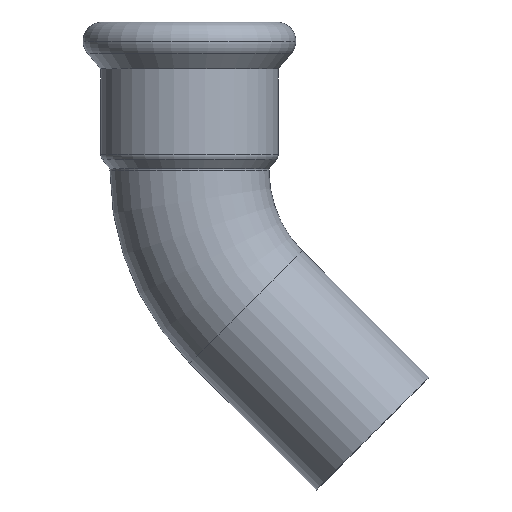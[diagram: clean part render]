
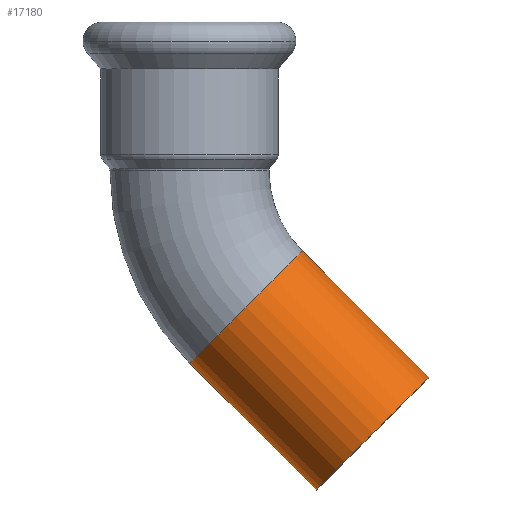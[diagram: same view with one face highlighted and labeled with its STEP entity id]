
A CAD part, top view. The second image highlights one B-rep face of the part: STEP entity #17180.
In plain terms, the highlighted cylindrical face has radius 14 mm (diameter 28 mm), a partial arc.
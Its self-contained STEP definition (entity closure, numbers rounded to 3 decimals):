
#14420=CARTESIAN_POINT('',(-394.348,17.515,0.));
#14430=DIRECTION('',(0.707,-0.707,0.));
#14440=DIRECTION('',(-0.707,-0.707,0.));
#14450=AXIS2_PLACEMENT_3D('',#14420,#14430,#14440);
#14460=CIRCLE('',#14450,14.);
#14470=CARTESIAN_POINT('',(-394.348,17.515,14.));
#14480=VERTEX_POINT('',#14470);
#14490=CARTESIAN_POINT('',(-404.247,7.615,
0.));
#14500=VERTEX_POINT('',#14490);
#14510=EDGE_CURVE('',#14480,#14500,#14460,.T.);
#14720=CARTESIAN_POINT('',(-384.448,27.414,
0.));
#14730=VERTEX_POINT('',#14720);
#14760=EDGE_CURVE('',#14730,#14480,#14460,.T.);
#15190=CARTESIAN_POINT('',(-394.348,17.515,0.));
#15200=DIRECTION('',(-0.707,0.707,0.));
#15210=DIRECTION('',(-0.707,-0.707,0.));
#15220=AXIS2_PLACEMENT_3D('',#15190,#15200,#15210);
#15230=CYLINDRICAL_SURFACE('',#15220,14.);
#15240=CARTESIAN_POINT('',(-384.448,27.414,
0.));
#15250=DIRECTION('',(-0.707,0.707,0.));
#15260=VECTOR('',#15250,1.);
#15270=LINE('',#15240,#15260);
#15280=CARTESIAN_POINT('',(-362.163,5.129,
0.));
#15290=VERTEX_POINT('',#15280);
#15300=EDGE_CURVE('',#15290,#14730,#15270,.T.);
#15340=CARTESIAN_POINT('',(-404.247,7.615,0.));
#15350=DIRECTION('',(-0.707,0.707,0.));
#15360=VECTOR('',#15350,1.);
#15370=LINE('',#15340,#15360);
#15380=CARTESIAN_POINT('',(-381.962,-14.67,0.));
#15390=VERTEX_POINT('',#15380);
#15400=EDGE_CURVE('',#15390,#14500,#15370,.T.);
#15420=CARTESIAN_POINT('',(-372.062,-4.771,0.));
#15430=DIRECTION('',(-0.707,0.707,0.));
#15440=DIRECTION('',(-0.707,-0.707,0.));
#15450=AXIS2_PLACEMENT_3D('',#15420,#15430,#15440);
#15460=CIRCLE('',#15450,14.);
#15570=EDGE_CURVE('',#15390,#15290,#15460,.T.);
#17110=ORIENTED_EDGE('',*,*,#15300,.T.);
#17120=ORIENTED_EDGE('',*,*,#15570,.T.);
#17130=ORIENTED_EDGE('',*,*,#15400,.F.);
#17140=ORIENTED_EDGE('',*,*,#14510,.T.);
#17150=ORIENTED_EDGE('',*,*,#14760,.T.);
#17160=EDGE_LOOP('',(#17150,#17140,#17130,#17120,#17110));
#17170=FACE_OUTER_BOUND('',#17160,.T.);
#17180=ADVANCED_FACE('',(#17170),#15230,.T.);
